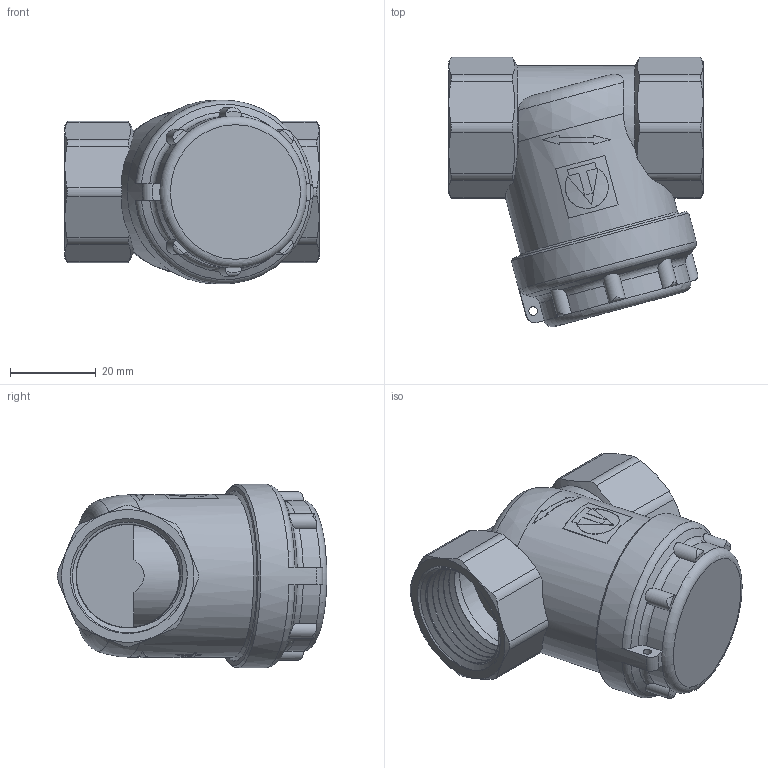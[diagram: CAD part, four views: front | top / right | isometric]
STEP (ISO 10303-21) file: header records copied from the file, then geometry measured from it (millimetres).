
FILE_DESCRIPTION(/* description */ (''),/* implementation_level */ '2;1');
FILE_NAME(/* name */ 'H:\Мишенин_3D\Для каталога DWG\Фильтры\VT.386.N.05.stp',/* time_stamp */ '2019-03-06T08:47:27+03:00',/* author */ ('MisheninAL'),/* organization */ (''),/* preprocessor_version */ 'ST-DEVELOPER v17',/* originating_system */ 'Autodesk Inventor 2019',/* authorisation */ '');
FILE_SCHEMA (('AUTOMOTIVE_DESIGN { 1 0 10303 214 3 1 1 }'));
Length unit declared in the file: millimetre
Products named in the file (1): VT.386.N.05
Bounding box: 59.5 x 63.08 x 43 mm (x, y, z)
Volume: 37105 mm3; surface area: 25180.8 mm2
Topology: 1 solids, 2 shells, 253 faces, 715 edges, 479 vertices
Faces by surface type: plane 107, cylinder 86, cone 30, torus 20, bspline 8, sphere 2
Full cylindrical faces by diameter (mm): 2 x1, 15 x1, 17 x1, 20 x1, 22 x1, 24.2 x10, 27.7 x6, 27.8 x6, 34 x1, 35.5 x1, 38 x2, 38.5 x1, 43 x1
Entity records: 12842 total; most frequent: CARTESIAN_POINT 6555, ORIENTED_EDGE 1422, DIRECTION 1204, EDGE_CURVE 711, AXIS2_PLACEMENT_3D 497, VERTEX_POINT 477, EDGE_LOOP 276, ADVANCED_FACE 253
